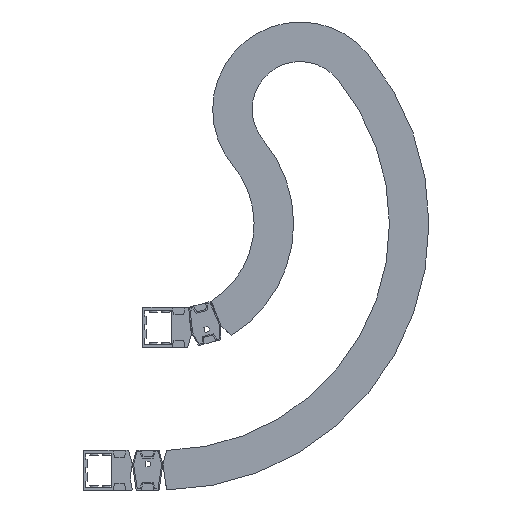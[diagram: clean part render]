
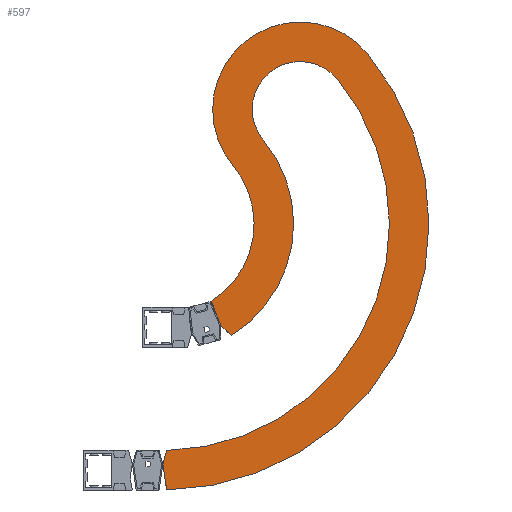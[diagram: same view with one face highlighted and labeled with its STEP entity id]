
A CAD part, front view. The second image highlights one B-rep face of the part: STEP entity #597.
In plain terms, the highlighted planar face has unit normal (0, -1, 0).
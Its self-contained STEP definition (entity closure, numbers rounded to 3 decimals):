
#597 = ADVANCED_FACE( '', ( #1435 ), #1436, .F. );
#1435 = FACE_OUTER_BOUND( '', #2563, .T. );
#1436 = PLANE( '', #2564 );
#2563 = EDGE_LOOP( '', ( #4166, #4167, #4168, #4169, #4170, #4171, #4172, #4173, #4174, #4175 ) );
#2564 = AXIS2_PLACEMENT_3D( '', #4176, #4177, #4178 );
#4166 = ORIENTED_EDGE( '', *, *, #7372, .F. );
#4167 = ORIENTED_EDGE( '', *, *, #7373, .F. );
#4168 = ORIENTED_EDGE( '', *, *, #7103, .F. );
#4169 = ORIENTED_EDGE( '', *, *, #7374, .T. );
#4170 = ORIENTED_EDGE( '', *, *, #7375, .F. );
#4171 = ORIENTED_EDGE( '', *, *, #7376, .F. );
#4172 = ORIENTED_EDGE( '', *, *, #7377, .F. );
#4173 = ORIENTED_EDGE( '', *, *, #7378, .T. );
#4174 = ORIENTED_EDGE( '', *, *, #7379, .T. );
#4175 = ORIENTED_EDGE( '', *, *, #7380, .F. );
#4176 = CARTESIAN_POINT( '', ( 0., -76.5, 0. ) );
#4177 = DIRECTION( '', ( 0., 1., 0. ) );
#4178 = DIRECTION( '', ( 0., 0., 1. ) );
#7103 = EDGE_CURVE( '', #8631, #8632, #8633, .T. );
#7372 = EDGE_CURVE( '', #9085, #9086, #9087, .T. );
#7373 = EDGE_CURVE( '', #8632, #9085, #9088, .T. );
#7374 = EDGE_CURVE( '', #8631, #9089, #9090, .T. );
#7375 = EDGE_CURVE( '', #9091, #9089, #9092, .T. );
#7376 = EDGE_CURVE( '', #9093, #9091, #9094, .T. );
#7377 = EDGE_CURVE( '', #9095, #9093, #9096, .T. );
#7378 = EDGE_CURVE( '', #9095, #9097, #9098, .T. );
#7379 = EDGE_CURVE( '', #9097, #9099, #9100, .T. );
#7380 = EDGE_CURVE( '', #9086, #9099, #9101, .T. );
#8631 = VERTEX_POINT( '', #10805 );
#8632 = VERTEX_POINT( '', #10806 );
#8633 = CIRCLE( '', #10807, 115. );
#9085 = VERTEX_POINT( '', #11454 );
#9086 = VERTEX_POINT( '', #11455 );
#9087 = LINE( '', #11456, #11457 );
#9088 = CIRCLE( '', #11458, 350. );
#9089 = VERTEX_POINT( '', #11459 );
#9090 = CIRCLE( '', #11460, 120. );
#9091 = VERTEX_POINT( '', #11461 );
#9092 = LINE( '', #11462, #11463 );
#9093 = VERTEX_POINT( '', #11464 );
#9094 = LINE( '', #11465, #11466 );
#9095 = VERTEX_POINT( '', #11467 );
#9096 = CIRCLE( '', #11468, 172. );
#9097 = VERTEX_POINT( '', #11469 );
#9098 = CIRCLE( '', #11470, 63. );
#9099 = VERTEX_POINT( '', #11471 );
#9100 = CIRCLE( '', #11472, 298. );
#9101 = LINE( '', #11473, #11474 );
#10805 = CARTESIAN_POINT( '', ( 92.181, -76.5, 76.828 ) );
#10806 = CARTESIAN_POINT( '', ( 268.862, -76.5, 224.083 ) );
#10807 = AXIS2_PLACEMENT_3D( '', #13455, #13456, #13457 );
#11454 = CARTESIAN_POINT( '', ( 4.975, -76.5, -349.965 ) );
#11455 = CARTESIAN_POINT( '', ( 0., -76.5, -316. ) );
#11456 = CARTESIAN_POINT( '', ( 4.975, -76.5, -349.965 ) );
#11457 = VECTOR( '', #13728, 1000. );
#11458 = AXIS2_PLACEMENT_3D( '', #13729, #13730, #13731 );
#11459 = CARTESIAN_POINT( '', ( 63.857, -76.5, -101.599 ) );
#11460 = AXIS2_PLACEMENT_3D( '', #13732, #13733, #13734 );
#11461 = CARTESIAN_POINT( '', ( 76.45, -76.5, -133.684 ) );
#11462 = CARTESIAN_POINT( '', ( 76.45, -76.5, -133.684 ) );
#11463 = VECTOR( '', #13735, 1000. );
#11464 = CARTESIAN_POINT( '', ( 89.657, -76.5, -146.784 ) );
#11465 = CARTESIAN_POINT( '', ( 89.657, -76.5, -146.784 ) );
#11466 = VECTOR( '', #13736, 1000. );
#11467 = CARTESIAN_POINT( '', ( 132.127, -76.5, 110.121 ) );
#11468 = AXIS2_PLACEMENT_3D( '', #13737, #13738, #13739 );
#11469 = CARTESIAN_POINT( '', ( 228.917, -76.5, 190.79 ) );
#11470 = AXIS2_PLACEMENT_3D( '', #13740, #13741, #13742 );
#11471 = CARTESIAN_POINT( '', ( 4.992, -76.5, -297.958 ) );
#11472 = AXIS2_PLACEMENT_3D( '', #13743, #13744, #13745 );
#11473 = CARTESIAN_POINT( '', ( 0., -76.5, -316. ) );
#11474 = VECTOR( '', #13746, 1000. );
#13455 = CARTESIAN_POINT( '', ( 180.522, -76.5, 150.456 ) );
#13456 = DIRECTION( '', ( 0., 1., 0. ) );
#13457 = DIRECTION( '', ( 1., 0., 0. ) );
#13728 = DIRECTION( '', ( -0.145, 0., 0.989 ) );
#13729 = CARTESIAN_POINT( '', ( 0., -76.5, 0. ) );
#13730 = DIRECTION( '', ( 0., 1., 0. ) );
#13731 = DIRECTION( '', ( 1., 0., 0. ) );
#13732 = CARTESIAN_POINT( '', ( 0., -76.5, 0. ) );
#13733 = DIRECTION( '', ( 0., 1., 0. ) );
#13734 = DIRECTION( '', ( 1., 0., 0. ) );
#13735 = DIRECTION( '', ( -0.365, 0., 0.931 ) );
#13736 = DIRECTION( '', ( -0.71, 0., 0.704 ) );
#13737 = CARTESIAN_POINT( '', ( 0., -76.5, 0. ) );
#13738 = DIRECTION( '', ( 0., 1., 0. ) );
#13739 = DIRECTION( '', ( 1., 0., 0. ) );
#13740 = CARTESIAN_POINT( '', ( 180.522, -76.5, 150.456 ) );
#13741 = DIRECTION( '', ( 0., 1., 0. ) );
#13742 = DIRECTION( '', ( 1., 0., 0. ) );
#13743 = CARTESIAN_POINT( '', ( 0., -76.5, 0. ) );
#13744 = DIRECTION( '', ( 0., 1., 0. ) );
#13745 = DIRECTION( '', ( 1., 0., 0. ) );
#13746 = DIRECTION( '', ( 0.267, 0., 0.964 ) );
